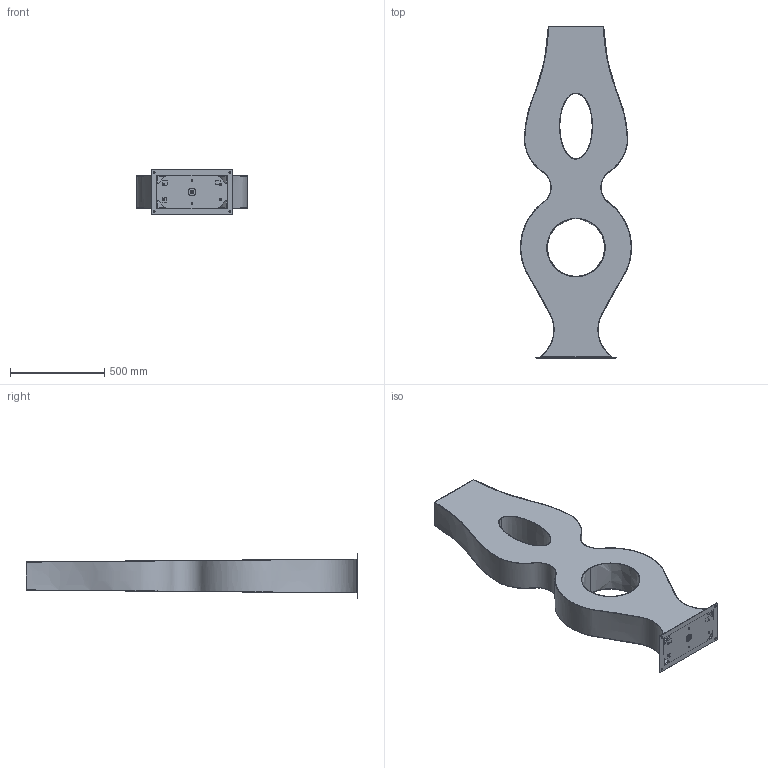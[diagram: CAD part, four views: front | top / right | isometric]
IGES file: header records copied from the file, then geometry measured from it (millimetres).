
Start section: SolidWorks IGES file using analytic representation for surfaces
Global section: file name: \\UTENTI\Dati Utenti\Tecnico\DC\2D - 3D per sito\3D\DeCastelli-3D-Tristan.igs; native system: SolidWorks 2022; preprocessor: SolidWorks 2022; author: maria; date: 240725.084414; units: millimetre
Bounding box: 588.34 x 1759.44 x 237 mm (x, y, z)
Surface area: 4609362.6 mm2 (no closed solid volume)
Topology: 0 solids, 0 shells, 141 faces, 3314 edges, 3314 vertices
Faces by surface type: bspline 79, revolution 62
